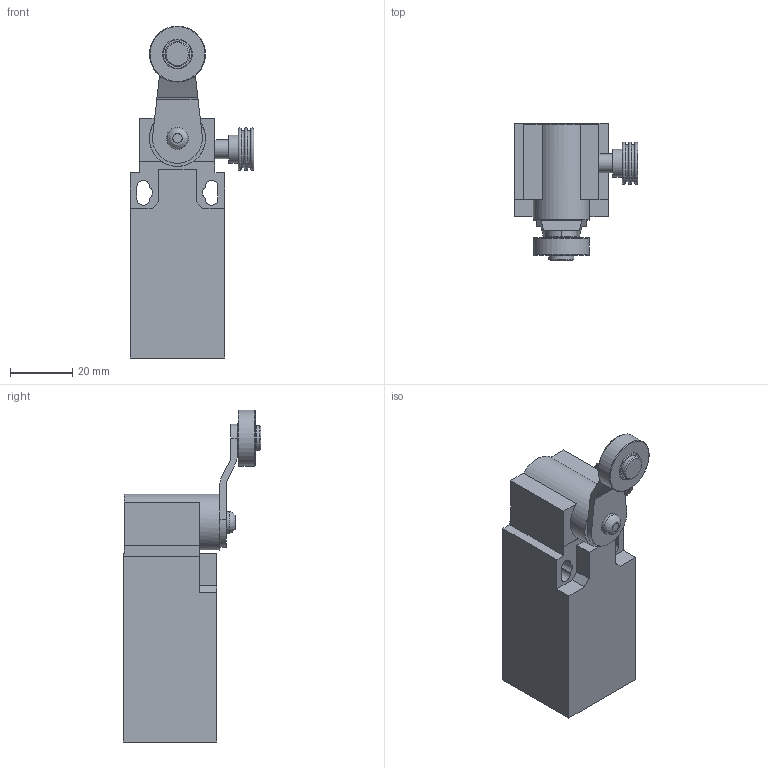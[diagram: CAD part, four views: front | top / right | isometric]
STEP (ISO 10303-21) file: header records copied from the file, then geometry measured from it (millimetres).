
FILE_DESCRIPTION((''),'2;1');
FILE_NAME('C:\Workarea\Disegni\Comepi\Catalogo\Stp\Finecorsa\AP1-R41.stp','2011-08-29T14:20:52',('Paolo'),(''),'Autodesk Inventor 2012','Autodesk Inventor 2012','');
FILE_SCHEMA(('AUTOMOTIVE_DESIGN { 1 0 10303 214 1 1 1 1 }'));
Length unit declared in the file: millimetre
Products named in the file (5): AP1-R41; AP1; R41; Rr; T41_2
Assembly tree (4 placements, depth 3):
  AP1-R41
    AP1
    R41
      Rr
      T41_2
Bounding box: 39.65 x 44.25 x 106.57 mm (x, y, z)
Volume: 62868.7 mm3; surface area: 16876.9 mm2
Topology: 3 solids, 3 shells, 91 faces, 210 edges, 136 vertices
Faces by surface type: plane 56, cylinder 22, torus 9, cone 3, bspline 1
Full cylindrical faces by diameter (mm): 6 x3, 7 x1, 8 x1, 9 x1, 18 x2, 20.4 x1
Entity records: 2701 total; most frequent: CARTESIAN_POINT 466, DIRECTION 448, ORIENTED_EDGE 374, EDGE_CURVE 187, AXIS2_PLACEMENT_3D 162, VERTEX_POINT 135, EDGE_LOOP 128, VECTOR 124
